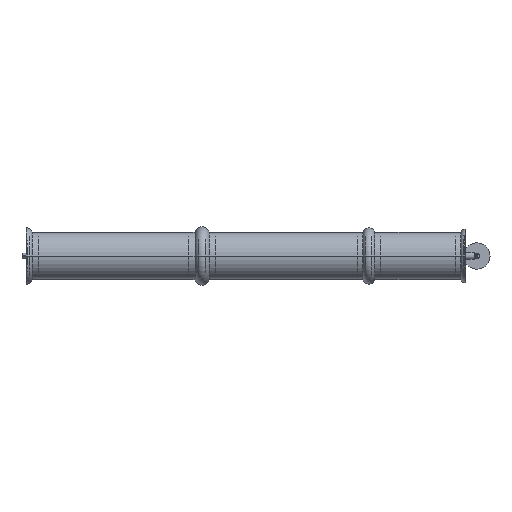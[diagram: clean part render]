
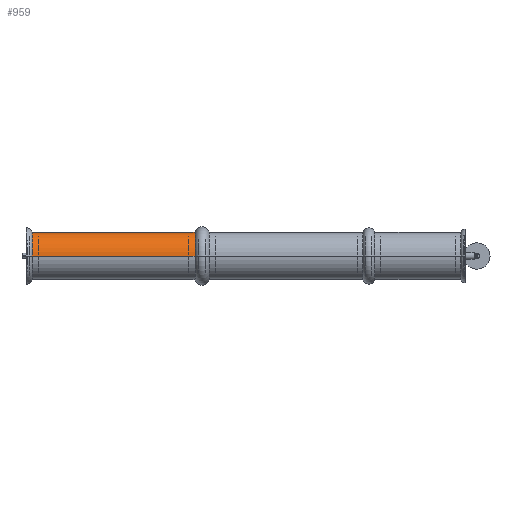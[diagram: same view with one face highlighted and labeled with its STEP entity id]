
A CAD part, front view. The second image highlights one B-rep face of the part: STEP entity #959.
In plain terms, the highlighted cylindrical face has radius 54 mm (diameter 108 mm), a partial arc.
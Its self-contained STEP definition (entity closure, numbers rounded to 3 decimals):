
#14 = EDGE_CURVE ( 'NONE', #1149, #1566, #633, .T. ) ;
#109 = DIRECTION ( 'NONE',  ( 0., -1., 0. ) ) ;
#140 = VERTEX_POINT ( 'NONE', #3111 ) ;
#249 = AXIS2_PLACEMENT_3D ( 'NONE', #2995, #1419, #109 ) ;
#417 = EDGE_CURVE ( 'NONE', #1566, #1702, #2599, .T. ) ;
#564 = DIRECTION ( 'NONE',  ( 0., -1., 0. ) ) ;
#592 = EDGE_LOOP ( 'NONE', ( #1556, #2054, #3334, #1275 ) ) ;
#616 = DIRECTION ( 'NONE',  ( -1., 0., 0. ) ) ;
#617 = DIRECTION ( 'NONE',  ( 0., -1., 0. ) ) ;
#633 = LINE ( 'NONE', #1132, #801 ) ;
#672 = AXIS2_PLACEMENT_3D ( 'NONE', #2477, #874, #617 ) ;
#801 = VECTOR ( 'NONE', #2958, 1000. ) ;
#819 = CARTESIAN_POINT ( 'NONE',  ( -500., 0., 0. ) ) ;
#874 = DIRECTION ( 'NONE',  ( -1., 0., 0. ) ) ;
#901 = FACE_OUTER_BOUND ( 'NONE', #592, .T. ) ;
#940 = CARTESIAN_POINT ( 'NONE',  ( -486.584, 54., 0. ) ) ;
#959 = ADVANCED_FACE ( 'NONE', ( #901 ), #3036, .T. ) ;
#1072 = DIRECTION ( 'NONE',  ( -1., 0., 0. ) ) ;
#1073 = EDGE_CURVE ( 'NONE', #140, #1702, #3192, .T. ) ;
#1132 = CARTESIAN_POINT ( 'NONE',  ( -500., -54., 0. ) ) ;
#1149 = VERTEX_POINT ( 'NONE', #3235 ) ;
#1275 = ORIENTED_EDGE ( 'NONE', *, *, #14, .F. ) ;
#1419 = DIRECTION ( 'NONE',  ( -1., 0., 0. ) ) ;
#1556 = ORIENTED_EDGE ( 'NONE', *, *, #3270, .T. ) ;
#1566 = VERTEX_POINT ( 'NONE', #3162 ) ;
#1702 = VERTEX_POINT ( 'NONE', #940 ) ;
#1923 = CARTESIAN_POINT ( 'NONE',  ( -500., 54., 0. ) ) ;
#2054 = ORIENTED_EDGE ( 'NONE', *, *, #1073, .T. ) ;
#2422 = CIRCLE ( 'NONE', #672, 54. ) ;
#2477 = CARTESIAN_POINT ( 'NONE',  ( -116.008, 0., 0. ) ) ;
#2599 = CIRCLE ( 'NONE', #249, 54. ) ;
#2958 = DIRECTION ( 'NONE',  ( -1., 0., 0. ) ) ;
#2992 = AXIS2_PLACEMENT_3D ( 'NONE', #819, #1072, #564 ) ;
#2995 = CARTESIAN_POINT ( 'NONE',  ( -486.584, 0., 0. ) ) ;
#3036 = CYLINDRICAL_SURFACE ( 'NONE', #2992, 54. ) ;
#3111 = CARTESIAN_POINT ( 'NONE',  ( -116.008, 54., 0. ) ) ;
#3162 = CARTESIAN_POINT ( 'NONE',  ( -486.584, -54., 0. ) ) ;
#3192 = LINE ( 'NONE', #1923, #3283 ) ;
#3235 = CARTESIAN_POINT ( 'NONE',  ( -116.008, -54., 0. ) ) ;
#3270 = EDGE_CURVE ( 'NONE', #1149, #140, #2422, .T. ) ;
#3283 = VECTOR ( 'NONE', #616, 1000. ) ;
#3334 = ORIENTED_EDGE ( 'NONE', *, *, #417, .F. ) ;
